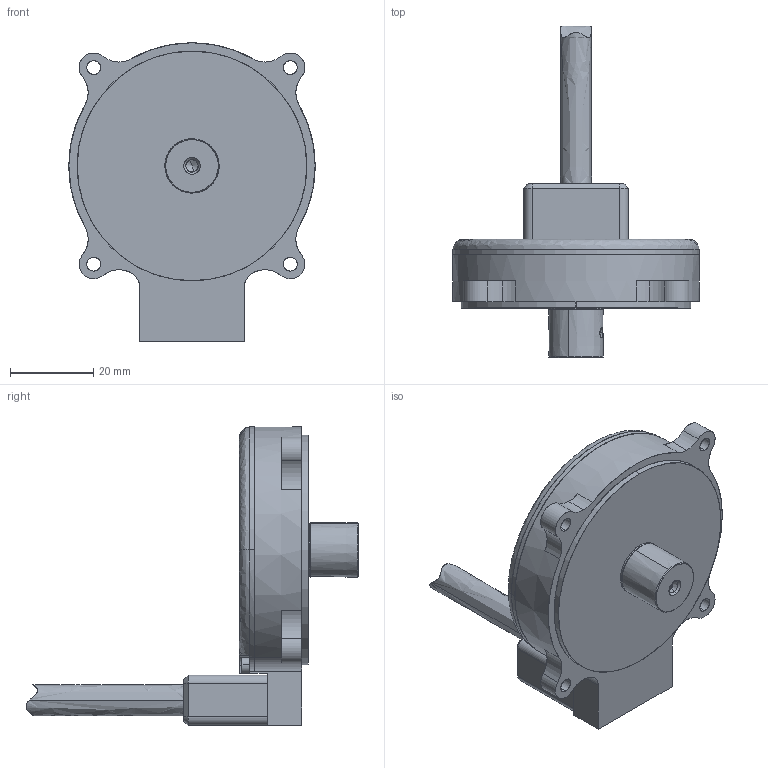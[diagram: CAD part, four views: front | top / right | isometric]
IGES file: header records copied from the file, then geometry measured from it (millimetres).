
Start section: SolidWorks IGES file using analytic representation for surfaces
Global section: file name: C:\Zettlex Data\Mechanical Drawings\1615\58mm Screw Mount 3.000mm Hub VFL1 Rev 1-0.IGS; native system: SolidWorks 2017; preprocessor: SolidWorks 2017; author: Istvan; date: 180126.104231; units: millimetre
Bounding box: 59 x 79.55 x 71.5 mm (x, y, z)
Surface area: 19587.6 mm2 (no closed solid volume)
Topology: 0 solids, 0 shells, 468 faces, 6137 edges, 6127 vertices
Faces by surface type: bspline 318, revolution 150
